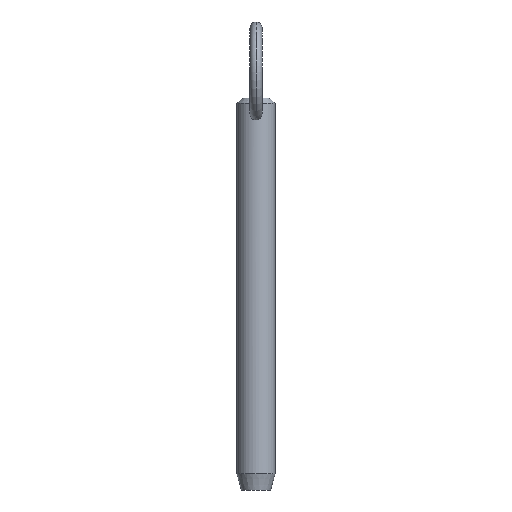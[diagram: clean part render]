
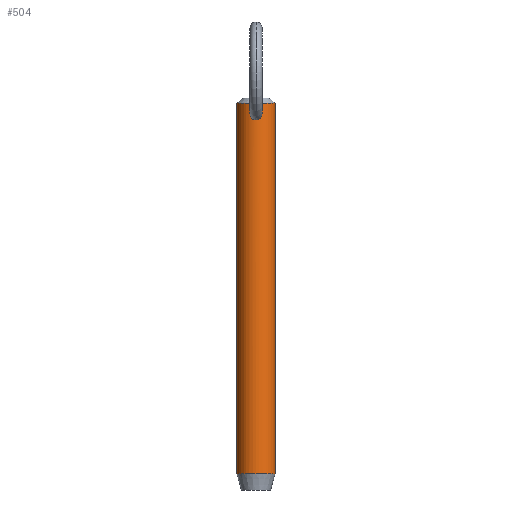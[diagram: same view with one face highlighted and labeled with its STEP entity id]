
A CAD part, front view. The second image highlights one B-rep face of the part: STEP entity #504.
In plain terms, the highlighted cylindrical face has radius 4.76 mm (diameter 9.52 mm), a partial arc.
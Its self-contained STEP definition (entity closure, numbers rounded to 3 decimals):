
#2 = VECTOR ( 'NONE', #26, 1000. ) ;
#3 = VERTEX_POINT ( 'NONE', #318 ) ;
#8 = CARTESIAN_POINT ( 'NONE',  ( -4.76, 0., -8.7 ) ) ;
#13 = CARTESIAN_POINT ( 'NONE',  ( 0., -4.76, 79.726 ) ) ;
#26 = DIRECTION ( 'NONE',  ( 0., 0., -1. ) ) ;
#30 = CYLINDRICAL_SURFACE ( 'NONE', #224, 4.76 ) ;
#35 = CARTESIAN_POINT ( 'NONE',  ( 0.209, -4.756, 83.034 ) ) ;
#42 = VERTEX_POINT ( 'NONE', #8 ) ;
#46 = CARTESIAN_POINT ( 'NONE',  ( 0.208, -4.757, 79.736 ) ) ;
#47 = CARTESIAN_POINT ( 'NONE',  ( -1.039, -4.646, 80.126 ) ) ;
#51 = EDGE_LOOP ( 'NONE', ( #331, #346 ) ) ;
#69 = EDGE_CURVE ( 'NONE', #246, #414, #78, .T. ) ;
#73 = CARTESIAN_POINT ( 'NONE',  ( 4.76, 0., 78.8 ) ) ;
#78 = CIRCLE ( 'NONE', #90, 4.76 ) ;
#89 = CARTESIAN_POINT ( 'NONE',  ( 0., -4.76, 83.048 ) ) ;
#90 = AXIS2_PLACEMENT_3D ( 'NONE', #261, #501, #94 ) ;
#94 = DIRECTION ( 'NONE',  ( 1., 0., 0. ) ) ;
#98 = DIRECTION ( 'NONE',  ( 0., 0., 1. ) ) ;
#99 = CARTESIAN_POINT ( 'NONE',  ( -1.508, -4.515, 81.137 ) ) ;
#101 = CARTESIAN_POINT ( 'NONE',  ( -1.487, -4.522, 81.553 ) ) ;
#103 = VERTEX_POINT ( 'NONE', #89 ) ;
#108 = CARTESIAN_POINT ( 'NONE',  ( -0.409, -4.743, 82.978 ) ) ;
#113 = CARTESIAN_POINT ( 'NONE',  ( -4.76, 0., 78.8 ) ) ;
#114 = ORIENTED_EDGE ( 'NONE', *, *, #143, .F. ) ;
#122 = CARTESIAN_POINT ( 'NONE',  ( 1.499, -4.518, 81.137 ) ) ;
#127 = EDGE_CURVE ( 'NONE', #3, #103, #309, .T. ) ;
#131 = DIRECTION ( 'NONE',  ( 0., 0., -1. ) ) ;
#139 = VERTEX_POINT ( 'NONE', #469 ) ;
#141 = CARTESIAN_POINT ( 'NONE',  ( -0.932, -4.67, 82.645 ) ) ;
#143 = EDGE_CURVE ( 'NONE', #246, #139, #489, .T. ) ;
#155 = CARTESIAN_POINT ( 'NONE',  ( 0.997, -4.655, 82.564 ) ) ;
#163 = CARTESIAN_POINT ( 'NONE',  ( 1.473, -4.526, 80.931 ) ) ;
#170 = CARTESIAN_POINT ( 'NONE',  ( -0.961, -4.663, 80.057 ) ) ;
#176 = B_SPLINE_CURVE_WITH_KNOTS ( 'NONE', 3,
 ( #362, #518, #35, #369, #245, #444, #479, #241, #155, #366, #521, #487, #442, #441, #406, #520, #122, #163, #291, #325, #526, #449, #453, #214, #209, #488, #451, #46, #491, #249 ),
 .UNSPECIFIED., .F., .F.,
 ( 4, 2, 2, 2, 2, 2, 2, 2, 2, 2, 2, 2, 2, 2, 4 ),
 ( 0.004, 0.005, 0.005, 0.005, 0.006, 0.006, 0.007, 0.007, 0.007, 0.007, 0.008, 0.008, 0.009, 0.009, 0.009 ),
 .UNSPECIFIED. ) ;
#189 = CARTESIAN_POINT ( 'NONE',  ( -0.208, -4.757, 83.034 ) ) ;
#196 = AXIS2_PLACEMENT_3D ( 'NONE', #216, #98, #266 ) ;
#209 = CARTESIAN_POINT ( 'NONE',  ( 0.797, -4.697, 79.929 ) ) ;
#214 = CARTESIAN_POINT ( 'NONE',  ( 0.97, -4.662, 80.05 ) ) ;
#216 = CARTESIAN_POINT ( 'NONE',  ( 0., 0., -8.7 ) ) ;
#218 = CARTESIAN_POINT ( 'NONE',  ( -0.703, -4.709, 79.889 ) ) ;
#220 = CARTESIAN_POINT ( 'NONE',  ( 0., 0., 78.8 ) ) ;
#222 = CARTESIAN_POINT ( 'NONE',  ( -1.353, -4.564, 80.535 ) ) ;
#224 = AXIS2_PLACEMENT_3D ( 'NONE', #220, #131, #262 ) ;
#226 = LINE ( 'NONE', #113, #2 ) ;
#231 = CARTESIAN_POINT ( 'NONE',  ( -1.441, -4.537, 81.757 ) ) ;
#235 = CARTESIAN_POINT ( 'NONE',  ( -0.504, -4.734, 82.938 ) ) ;
#237 = DIRECTION ( 'NONE',  ( 0., 0., -1. ) ) ;
#241 = CARTESIAN_POINT ( 'NONE',  ( 0.925, -4.67, 82.639 ) ) ;
#245 = CARTESIAN_POINT ( 'NONE',  ( 0.506, -4.734, 82.937 ) ) ;
#246 = VERTEX_POINT ( 'NONE', #276 ) ;
#249 = CARTESIAN_POINT ( 'NONE',  ( 0., -4.76, 79.726 ) ) ;
#261 = CARTESIAN_POINT ( 'NONE',  ( 0., 0., 83.85 ) ) ;
#262 = DIRECTION ( 'NONE',  ( -1., 0., 0. ) ) ;
#264 = EDGE_CURVE ( 'NONE', #414, #42, #226, .T. ) ;
#266 = DIRECTION ( 'NONE',  ( -1., 0., 0. ) ) ;
#274 = CARTESIAN_POINT ( 'NONE',  ( -1.247, -4.596, 80.352 ) ) ;
#276 = CARTESIAN_POINT ( 'NONE',  ( 4.76, 0., 83.85 ) ) ;
#279 = VECTOR ( 'NONE', #237, 1000. ) ;
#291 = CARTESIAN_POINT ( 'NONE',  ( 1.45, -4.534, 80.828 ) ) ;
#293 = CARTESIAN_POINT ( 'NONE',  ( -4.76, 0., 83.85 ) ) ;
#301 = CARTESIAN_POINT ( 'NONE',  ( -0.21, -4.76, 79.726 ) ) ;
#305 = ORIENTED_EDGE ( 'NONE', *, *, #69, .T. ) ;
#309 = B_SPLINE_CURVE_WITH_KNOTS ( 'NONE', 3,
 ( #13, #301, #383, #218, #387, #170, #47, #274, #222, #502, #99, #101, #231, #436, #352, #141, #510, #235, #108, #189, #359, #477 ),
 .UNSPECIFIED., .F., .F.,
 ( 4, 2, 2, 2, 2, 2, 2, 2, 2, 2, 4 ),
 ( 0.009, 0.01, 0.01, 0.011, 0.011, 0.012, 0.012, 0.013, 0.014, 0.014, 0.014 ),
 .UNSPECIFIED. ) ;
#318 = CARTESIAN_POINT ( 'NONE',  ( 0., -4.76, 79.726 ) ) ;
#325 = CARTESIAN_POINT ( 'NONE',  ( 1.385, -4.554, 80.632 ) ) ;
#331 = ORIENTED_EDGE ( 'NONE', *, *, #394, .T. ) ;
#344 = CIRCLE ( 'NONE', #196, 4.76 ) ;
#346 = ORIENTED_EDGE ( 'NONE', *, *, #127, .T. ) ;
#352 = CARTESIAN_POINT ( 'NONE',  ( -1.19, -4.611, 82.324 ) ) ;
#355 = FACE_BOUND ( 'NONE', #51, .T. ) ;
#359 = CARTESIAN_POINT ( 'NONE',  ( -0.103, -4.76, 83.048 ) ) ;
#362 = CARTESIAN_POINT ( 'NONE',  ( 0., -4.76, 83.048 ) ) ;
#366 = CARTESIAN_POINT ( 'NONE',  ( 1.19, -4.611, 82.324 ) ) ;
#369 = CARTESIAN_POINT ( 'NONE',  ( 0.409, -4.743, 82.978 ) ) ;
#383 = CARTESIAN_POINT ( 'NONE',  ( -0.416, -4.746, 79.767 ) ) ;
#387 = CARTESIAN_POINT ( 'NONE',  ( -0.793, -4.694, 79.939 ) ) ;
#394 = EDGE_CURVE ( 'NONE', #103, #3, #176, .T. ) ;
#406 = CARTESIAN_POINT ( 'NONE',  ( 1.492, -4.52, 81.448 ) ) ;
#414 = VERTEX_POINT ( 'NONE', #293 ) ;
#419 = ORIENTED_EDGE ( 'NONE', *, *, #447, .T. ) ;
#431 = FACE_OUTER_BOUND ( 'NONE', #497, .T. ) ;
#436 = CARTESIAN_POINT ( 'NONE',  ( -1.292, -4.582, 82.145 ) ) ;
#441 = CARTESIAN_POINT ( 'NONE',  ( 1.478, -4.525, 81.552 ) ) ;
#442 = CARTESIAN_POINT ( 'NONE',  ( 1.434, -4.539, 81.754 ) ) ;
#444 = CARTESIAN_POINT ( 'NONE',  ( 0.687, -4.711, 82.835 ) ) ;
#447 = EDGE_CURVE ( 'NONE', #42, #139, #344, .T. ) ;
#449 = CARTESIAN_POINT ( 'NONE',  ( 1.24, -4.596, 80.36 ) ) ;
#451 = CARTESIAN_POINT ( 'NONE',  ( 0.411, -4.743, 79.777 ) ) ;
#453 = CARTESIAN_POINT ( 'NONE',  ( 1.178, -4.613, 80.276 ) ) ;
#469 = CARTESIAN_POINT ( 'NONE',  ( 4.76, 0., -8.7 ) ) ;
#477 = CARTESIAN_POINT ( 'NONE',  ( 0., -4.76, 83.048 ) ) ;
#479 = CARTESIAN_POINT ( 'NONE',  ( 0.77, -4.698, 82.775 ) ) ;
#487 = CARTESIAN_POINT ( 'NONE',  ( 1.404, -4.548, 81.853 ) ) ;
#488 = CARTESIAN_POINT ( 'NONE',  ( 0.512, -4.733, 79.808 ) ) ;
#489 = LINE ( 'NONE', #73, #279 ) ;
#491 = CARTESIAN_POINT ( 'NONE',  ( 0.105, -4.76, 79.726 ) ) ;
#497 = EDGE_LOOP ( 'NONE', ( #114, #305, #507, #419 ) ) ;
#501 = DIRECTION ( 'NONE',  ( 0., 0., -1. ) ) ;
#502 = CARTESIAN_POINT ( 'NONE',  ( -1.483, -4.524, 80.926 ) ) ;
#504 = ADVANCED_FACE ( 'NONE', ( #431, #355 ), #30, .T. ) ;
#507 = ORIENTED_EDGE ( 'NONE', *, *, #264, .T. ) ;
#510 = CARTESIAN_POINT ( 'NONE',  ( -0.777, -4.7, 82.785 ) ) ;
#518 = CARTESIAN_POINT ( 'NONE',  ( 0.104, -4.76, 83.048 ) ) ;
#520 = CARTESIAN_POINT ( 'NONE',  ( 1.503, -4.517, 81.24 ) ) ;
#521 = CARTESIAN_POINT ( 'NONE',  ( 1.293, -4.582, 82.142 ) ) ;
#526 = CARTESIAN_POINT ( 'NONE',  ( 1.344, -4.567, 80.539 ) ) ;
